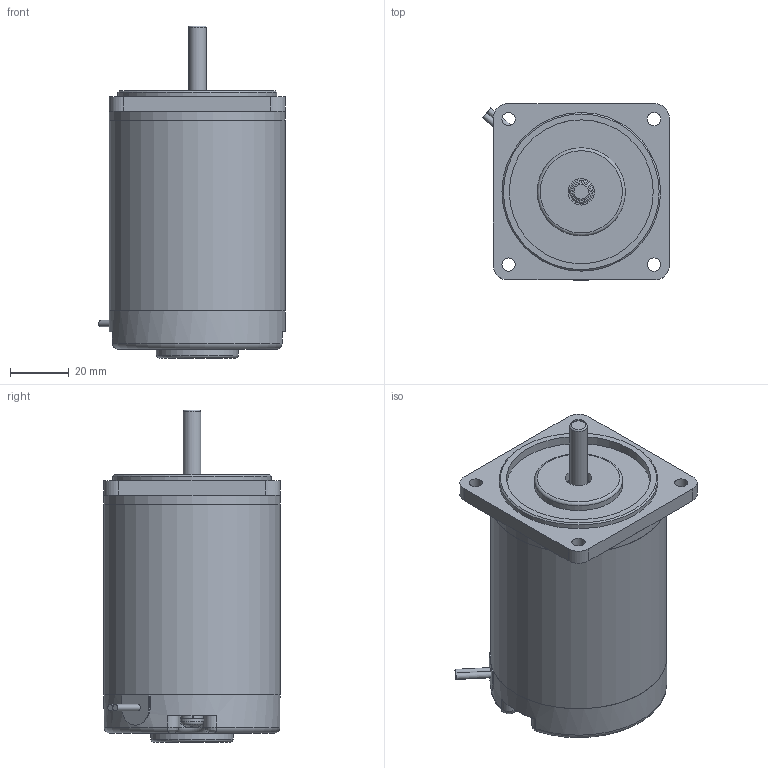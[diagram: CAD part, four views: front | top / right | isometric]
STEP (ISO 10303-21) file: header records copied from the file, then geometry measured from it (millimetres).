
FILE_DESCRIPTION((''),'2;1');
FILE_NAME('D:\연구개발부2팀 1파트\10_진행업무\3D_60각\S6D15-ㅁS.stp','2013-06-05T15:26:10',('song'),(''),'Autodesk Inventor 2011','Autodesk Inventor 2011','');
FILE_SCHEMA(('AUTOMOTIVE_DESIGN { 1 0 10303 214 1 1 1 1 }'));
Length unit declared in the file: millimetre
Products named in the file (9): S6D15-12; FRONT HOUSING; REAR HOUSING ASS'Y; REAR HOUSING; cord bush; NF EN ISO 7045 - Z M4 x 40 - 4.8 - Z; AS 1968 4; PIPE HOUSING; shaft_straight
Assembly tree (9 placements, depth 2):
  S6D15-12
    FRONT HOUSING
    PIPE HOUSING
    shaft_straight
  REAR HOUSING ASS'Y
    REAR HOUSING
    cord bush
    NF EN ISO 7045 - Z M4 x 40 - 4.8 - Z  x2
    AS 1968 4  x2
Bounding box: 63.59 x 60 x 113 mm (x, y, z)
Volume: 242597.6 mm3; surface area: 39548.4 mm2
Topology: 9 solids, 9 shells, 184 faces, 422 edges, 266 vertices
Faces by surface type: plane 82, cylinder 43, cone 36, torus 17, bspline 4, sphere 2
Full cylindrical faces by diameter (mm): 2.2 x2, 3.621 x2, 4 x2, 4.5 x6, 6 x1, 8 x1, 9 x1, 28 x1, 30 x1, 49 x1, 54 x1, 55 x1, 60 x3
Entity records: 4395 total; most frequent: CARTESIAN_POINT 1155, DIRECTION 675, ORIENTED_EDGE 546, AXIS2_PLACEMENT_3D 297, EDGE_CURVE 273, VERTEX_POINT 189, EDGE_LOOP 189, FACE_OUTER_BOUND 136
